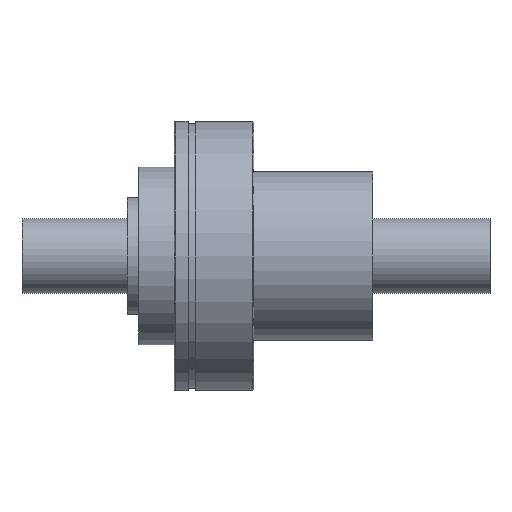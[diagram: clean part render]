
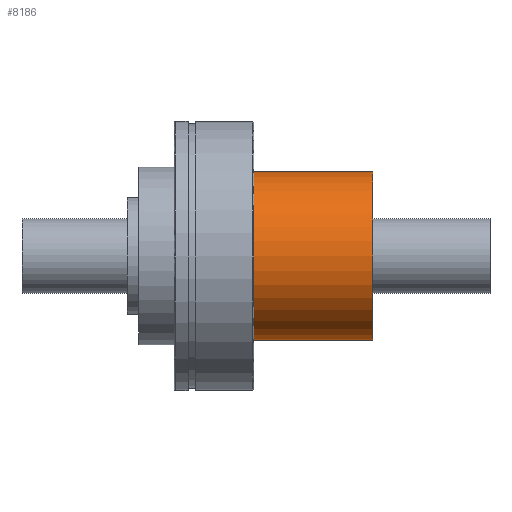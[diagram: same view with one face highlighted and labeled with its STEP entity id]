
A CAD part, front view. The second image highlights one B-rep face of the part: STEP entity #8186.
In plain terms, the highlighted cylindrical face has radius 36 mm (diameter 72 mm), a partial arc.
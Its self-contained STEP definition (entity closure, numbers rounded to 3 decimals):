
#924 = ORIENTED_EDGE ( 'NONE', *, *, #10058, .F. ) ;
#925 = ORIENTED_EDGE ( 'NONE', *, *, #10068, .T. ) ;
#926 = ORIENTED_EDGE ( 'NONE', *, *, #10060, .T. ) ;
#927 = ORIENTED_EDGE ( 'NONE', *, *, #10065, .F. ) ;
#1549 = EDGE_LOOP ( 'NONE', ( #924, #925, #926, #927 ) ) ;
#2138 = FACE_OUTER_BOUND ( 'NONE', #1549, .T. ) ;
#2139 = CYLINDRICAL_SURFACE ( 'NONE', #10855, 36. ) ;
#2499 = VECTOR ( 'NONE', #7692, 1000. ) ;
#2503 = VECTOR ( 'NONE', #7686, 1000. ) ;
#2504 = LINE ( 'NONE', #7691, #2499 ) ;
#2506 = LINE ( 'NONE', #7678, #2503 ) ;
#3861 = CIRCLE ( 'NONE', #9566, 36. ) ;
#3866 = CIRCLE ( 'NONE', #9577, 36. ) ;
#5403 = DIRECTION ( 'NONE',  ( 0., 0., 1. ) ) ;
#5416 = DIRECTION ( 'NONE',  ( -1., 0., 0. ) ) ;
#5421 = CARTESIAN_POINT ( 'NONE',  ( -33.984, 0., 0. ) ) ;
#7678 = CARTESIAN_POINT ( 'NONE',  ( -33.984, 0., -36. ) ) ;
#7686 = DIRECTION ( 'NONE',  ( -1., 0., 0. ) ) ;
#7691 = CARTESIAN_POINT ( 'NONE',  ( -33.984, 0., 36. ) ) ;
#7692 = DIRECTION ( 'NONE',  ( -1., 0., 0. ) ) ;
#7703 = CARTESIAN_POINT ( 'NONE',  ( 0., 0., 0. ) ) ;
#7705 = DIRECTION ( 'NONE',  ( -1., 0., 0. ) ) ;
#7706 = DIRECTION ( 'NONE',  ( 0., 0., 1. ) ) ;
#7707 = CARTESIAN_POINT ( 'NONE',  ( 51., 0., 0. ) ) ;
#7713 = DIRECTION ( 'NONE',  ( -1., 0., 0. ) ) ;
#7714 = DIRECTION ( 'NONE',  ( 0., 0., 1. ) ) ;
#8186 = ADVANCED_FACE ( 'NONE', ( #2138 ), #2139, .T. ) ;
#9566 = AXIS2_PLACEMENT_3D ( 'NONE', #7703, #7705, #7706 ) ;
#9577 = AXIS2_PLACEMENT_3D ( 'NONE', #7707, #7713, #7714 ) ;
#10058 = EDGE_CURVE ( 'NONE', #11684, #11659, #2506, .T. ) ;
#10060 = EDGE_CURVE ( 'NONE', #11645, #11576, #2504, .T. ) ;
#10065 = EDGE_CURVE ( 'NONE', #11659, #11576, #3861, .T. ) ;
#10068 = EDGE_CURVE ( 'NONE', #11684, #11645, #3866, .T. ) ;
#10855 = AXIS2_PLACEMENT_3D ( 'NONE', #5421, #5416, #5403 ) ;
#11328 = CARTESIAN_POINT ( 'NONE',  ( 0., 0., 36. ) ) ;
#11398 = CARTESIAN_POINT ( 'NONE',  ( 51., 0., 36. ) ) ;
#11412 = CARTESIAN_POINT ( 'NONE',  ( 0., 0., -36. ) ) ;
#11437 = CARTESIAN_POINT ( 'NONE',  ( 51., 0., -36. ) ) ;
#11576 = VERTEX_POINT ( 'NONE', #11328 ) ;
#11645 = VERTEX_POINT ( 'NONE', #11398 ) ;
#11659 = VERTEX_POINT ( 'NONE', #11412 ) ;
#11684 = VERTEX_POINT ( 'NONE', #11437 ) ;
